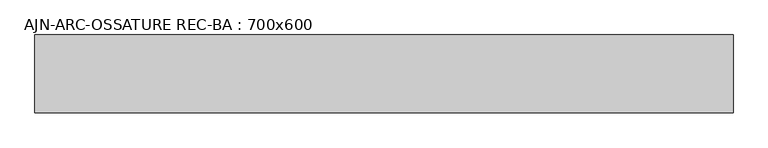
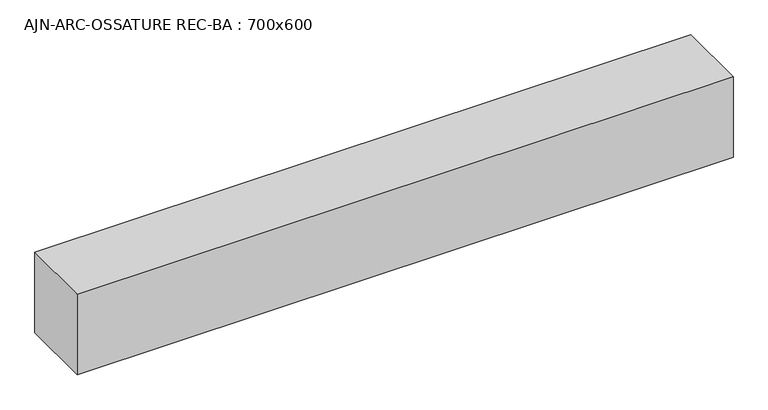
"""IFC4 building model written with IfcOpenShell, lengths in millimetres: beam geometry, AJN-ARC-OSSATURE REC-BA : 700x600."""

from ifc_helpers import new_model, si_unit, frame, origin, place, context, project, spatial, polyline, outline, extrude, source, transform, mapped, element, save


def ajn_arc_ossature_rec_ba_700x600_e688680c(model_context):
    return source(origin(), model_context, "Body", "SweptSolid", [
        extrude(outline(polyline([(2387.3, 300.0), (2387.3, -300.0), (-3000.0, -300.0), (-3000.0, 300.0), (2387.3, 300.0)])), frame((0.0, 0.0, -350.0), z_axis=(0.0, 0.0, 1.0), x_axis=(1.0, 0.0, 0.0)), (0.0, 0.0, 1.0), 700.0),
    ])


if __name__ == "__main__":
    model = new_model("IFC4")
    model_context = context("Model", 3, world=origin())
    ifc_project = project(units=[si_unit("LENGTHUNIT", "METRE", prefix="MILLI")], contexts=[model_context])
    site = spatial("IfcSite", under=ifc_project)
    building = spatial("IfcBuilding", under=site)
    placement = place(None, origin())
    ajn_arc_ossature_rec_ba_700x600_shape = ajn_arc_ossature_rec_ba_700x600_e688680c(model_context)
    element("IfcBeam", 1, ObjectType="AJN-ARC-OSSATURE REC-BA : 700x600", at=placement, inside=building, context=model_context, shape_type="MappedRepresentation", body=[
        mapped(ajn_arc_ossature_rec_ba_700x600_shape, transform((0.0, 0.0, 0.0), x_axis=(1.0, 0.0, 0.0), y_axis=(0.0, 1.0, 0.0), z_axis=(0.0, 0.0, 1.0))),
    ])
    save(model, "model.ifc")
